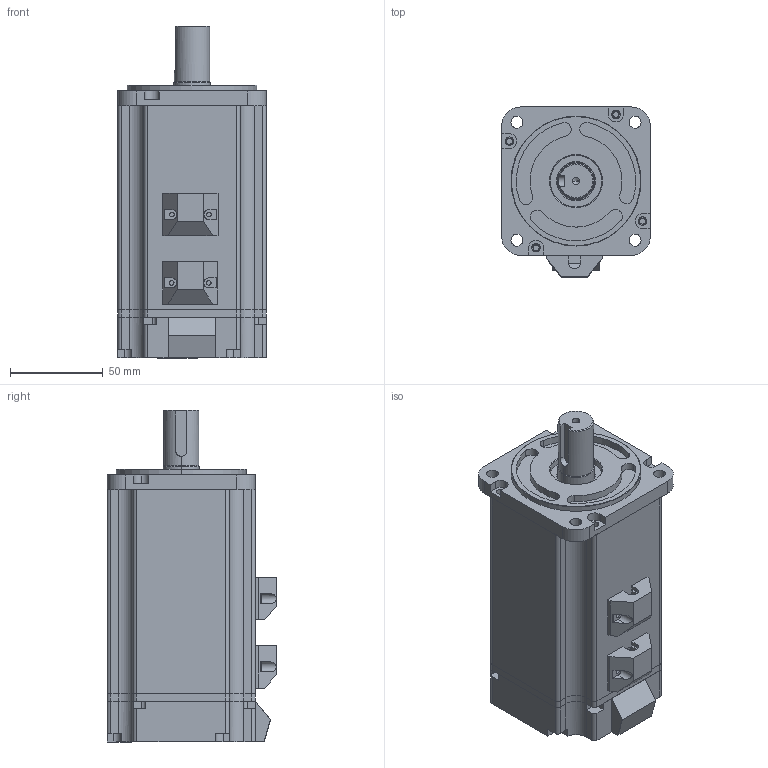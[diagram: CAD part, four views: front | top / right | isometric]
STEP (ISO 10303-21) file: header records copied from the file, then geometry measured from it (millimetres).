
FILE_DESCRIPTION (( 'STEP AP214' ), '1' );
FILE_NAME ('RSNA-M08J2430A-Z .STEP', '2022-05-21T04:54:13', ( '' ), ( '' ), 'SwSTEP 2.0', 'SolidWorks 2020', '' );
FILE_SCHEMA (( 'AUTOMOTIVE_DESIGN' ));
Length unit declared in the file: millimetre
Products named in the file (7): RSNA-M08J2430A-Z ; 80SF750-K1950-003; S80DG-A-001; 80侜督呿蹋綴欶; S80DG-B-001; 86等謂揤盄裔; S80-H110-001
Assembly tree (7 placements, depth 2):
  RSNA-M08J2430A-Z 
    80SF750-K1950-003
    S80DG-A-001
    S80DG-B-001
    S80-H110-001
    80侜督呿蹋綴欶
    86等謂揤盄裔  x2
Bounding box: 80 x 91.55 x 179 mm (x, y, z)
Volume: 267880.8 mm3; surface area: 147123.1 mm2
Topology: 7 solids, 7 shells, 744 faces, 1916 edges, 1201 vertices
Faces by surface type: cylinder 321, plane 270, torus 62, bspline 48, cone 43
Entity records: 23237 total; most frequent: CARTESIAN_POINT 6001, DIRECTION 3642, ORIENTED_EDGE 3452, EDGE_CURVE 1726, AXIS2_PLACEMENT_3D 1410, VERTEX_POINT 1089, VECTOR 822, LINE 822
